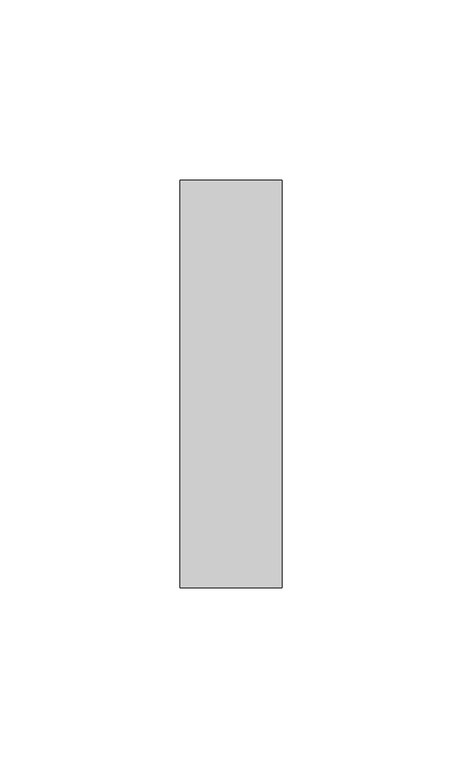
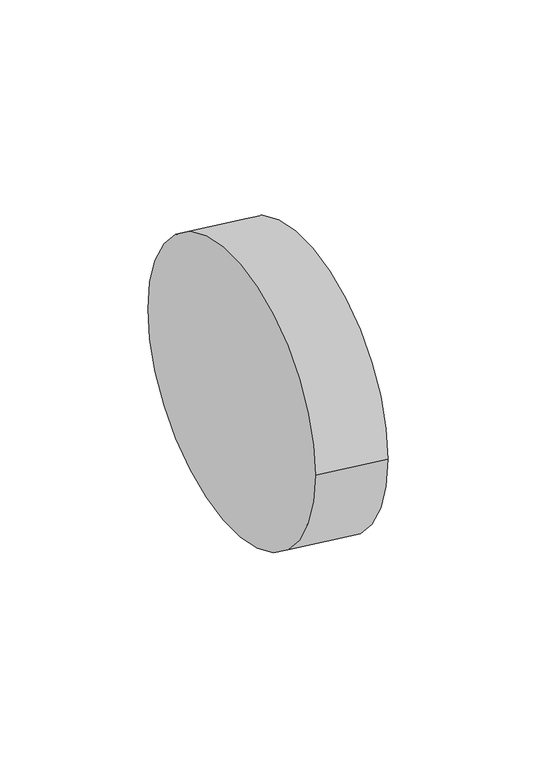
"""IFC4 building model written with IfcOpenShell, lengths in millimetres: pipe fitting geometry, M_Transición - Genérica : Estándar."""

from ifc_helpers import new_model, si_unit, point, frame, origin, place, context, project, spatial, circle_curve, trimmed, source, transform, mapped, element, save
from ifc_brep_helpers import plane_surface, extruded_surface, advanced_brep


def pipe_fitting_293e509b(model_context):
    return source(origin(), model_context, "Body", "AdvancedBrep", [
        advanced_brep(
        [(28.29375, -56.5736365, -3.3469948), (28.29375, 56.6013635, -3.3469948), (0.0, -56.5875, 0.0), (0.0, 56.5875, 0.0)],
        [
            (0, 1, circle_curve(frame((28.29375, 0.0138635, -3.3469948), z_axis=(1.0, 0.0, 0.0), x_axis=(0.0, 1.0, 0.0)), 56.5875)),
            (1, 0, circle_curve(frame((28.29375, 0.0138635, -3.3469948), z_axis=(1.0, 0.0, 0.0), x_axis=(0.0, 1.0, 0.0)), 56.5875)),
            (2, 3, circle_curve(frame((0.0, 0.0, 0.0), z_axis=(-1.0, 0.0, 0.0), x_axis=(0.0, 1.0, 0.0)), 56.5875)),
            (3, 2, circle_curve(frame((0.0, 0.0, 0.0), z_axis=(-1.0, 0.0, 0.0), x_axis=(0.0, 1.0, 0.0)), 56.5875)),
            (3, 1),
            (0, 2),
        ],
        [
            plane_surface(frame((28.29375, 0.0138635, -3.3469948), z_axis=(1.0, 0.0, 0.0), x_axis=(0.0, 0.0, -1.0))),
            plane_surface(frame((0.0, 0.0, 0.0), z_axis=(-1.0, 0.0, 0.0), x_axis=(0.0, 0.0, -1.0))),
            extruded_surface(trimmed(circle_curve(frame((0.0, 0.0, 0.0), z_axis=(1.0, 0.0, 0.0), x_axis=(0.0, 1.0, 0.0)), 56.5875), [point((0.0, -56.5875, 0.0))], [point((0.0, 56.5875, 0.0))], True, "CARTESIAN"), (28.29375, 0.0138635, -3.3469948), 28.491031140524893),
            extruded_surface(trimmed(circle_curve(frame((0.0, 0.0, 0.0), z_axis=(1.0, 0.0, 0.0), x_axis=(0.0, 1.0, 0.0)), 56.5875), [point((0.0, 56.5875, 0.0))], [point((0.0, -56.5875, 0.0))], True, "CARTESIAN"), (28.29375, 0.0138635, -3.3469948), 28.491031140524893),
        ],
        [
            (0, [[1, 2]]),
            (1, [[3, 4]]),
            (2, [[-4, 5, -1, 6]]),
            (3, [[-3, -6, -2, -5]]),
        ],
    ),
    ])


if __name__ == "__main__":
    model = new_model("IFC4")
    model_context = context("Model", 3, world=origin())
    ifc_project = project(units=[si_unit("LENGTHUNIT", "METRE", prefix="MILLI")], contexts=[model_context])
    site = spatial("IfcSite", under=ifc_project)
    building = spatial("IfcBuilding", under=site)
    placement = place(None, origin())
    pipe_fitting_shape = pipe_fitting_293e509b(model_context)
    element("IfcPipeFitting", 1, ObjectType="M_Transición - Genérica : Estándar", at=placement, inside=building, context=model_context, shape_type="MappedRepresentation", body=[
        mapped(pipe_fitting_shape, transform((0.0, 0.0, 0.0), x_axis=(1.0, 0.0, 0.0), y_axis=(0.0, 1.0, 0.0), z_axis=(0.0, 0.0, 1.0))),
    ])
    save(model, "model.ifc")
